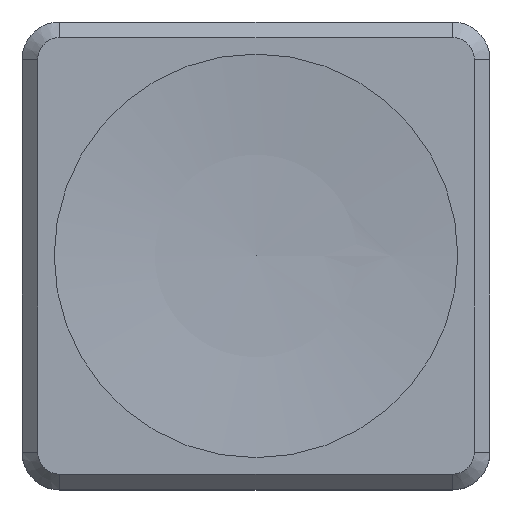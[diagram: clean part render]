
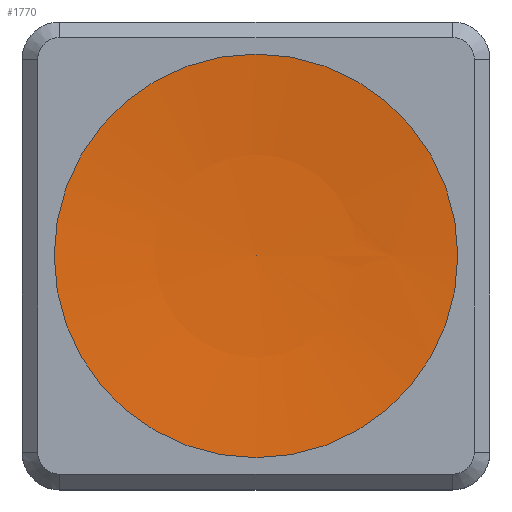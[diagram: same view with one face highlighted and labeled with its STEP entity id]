
A CAD part, top view. The second image highlights one B-rep face of the part: STEP entity #1770.
In plain terms, the highlighted spherical face has radius 60 mm.
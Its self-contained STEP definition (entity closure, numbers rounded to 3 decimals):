
#286 = PLANE('',#287);
#287 = AXIS2_PLACEMENT_3D('',#288,#289,#290);
#288 = CARTESIAN_POINT('',(-7.5,-7.5,4.));
#289 = DIRECTION('',(0.,0.,1.));
#290 = DIRECTION('',(1.,0.,0.));
#1032 = EDGE_CURVE('',#1033,#1033,#1035,.T.);
#1033 = VERTEX_POINT('',#1034);
#1034 = CARTESIAN_POINT('',(6.471,0.,4.));
#1035 = SURFACE_CURVE('',#1036,(#1041,#1048),.PCURVE_S1.);
#1036 = CIRCLE('',#1037,6.471);
#1037 = AXIS2_PLACEMENT_3D('',#1038,#1039,#1040);
#1038 = CARTESIAN_POINT('',(0.,0.,4.));
#1039 = DIRECTION('',(0.,0.,1.));
#1040 = DIRECTION('',(1.,0.,-0.));
#1041 = PCURVE('',#286,#1042);
#1042 = DEFINITIONAL_REPRESENTATION('',(#1043),#1047);
#1043 = CIRCLE('',#1044,6.471);
#1044 = AXIS2_PLACEMENT_2D('',#1045,#1046);
#1045 = CARTESIAN_POINT('',(7.5,7.5));
#1046 = DIRECTION('',(1.,0.));
#1047 = ( GEOMETRIC_REPRESENTATION_CONTEXT(2) 
PARAMETRIC_REPRESENTATION_CONTEXT() REPRESENTATION_CONTEXT('2D SPACE',''
  ) );
#1048 = PCURVE('',#1049,#1054);
#1049 = SPHERICAL_SURFACE('',#1050,60.);
#1050 = AXIS2_PLACEMENT_3D('',#1051,#1052,#1053);
#1051 = CARTESIAN_POINT('',(0.,0.,63.65));
#1052 = DIRECTION('',(0.,0.,1.));
#1053 = DIRECTION('',(1.,0.,0.));
#1054 = DEFINITIONAL_REPRESENTATION('',(#1055),#1059);
#1055 = LINE('',#1056,#1057);
#1056 = CARTESIAN_POINT('',(0.,-1.463));
#1057 = VECTOR('',#1058,1.);
#1058 = DIRECTION('',(1.,0.));
#1059 = ( GEOMETRIC_REPRESENTATION_CONTEXT(2) 
PARAMETRIC_REPRESENTATION_CONTEXT() REPRESENTATION_CONTEXT('2D SPACE',''
  ) );
#1770 = ADVANCED_FACE('',(#1771),#1049,.F.);
#1771 = FACE_BOUND('',#1772,.F.);
#1772 = EDGE_LOOP('',(#1773,#1774,#1798));
#1773 = ORIENTED_EDGE('',*,*,#1032,.F.);
#1774 = ORIENTED_EDGE('',*,*,#1775,.F.);
#1775 = EDGE_CURVE('',#1776,#1033,#1778,.T.);
#1776 = VERTEX_POINT('',#1777);
#1777 = CARTESIAN_POINT('',(0.,0.,3.65)
  );
#1778 = SEAM_CURVE('',#1779,(#1784,#1791),.PCURVE_S1.);
#1779 = CIRCLE('',#1780,60.);
#1780 = AXIS2_PLACEMENT_3D('',#1781,#1782,#1783);
#1781 = CARTESIAN_POINT('',(0.,0.,63.65));
#1782 = DIRECTION('',(0.,-1.,0.));
#1783 = DIRECTION('',(1.,0.,0.));
#1784 = PCURVE('',#1049,#1785);
#1785 = DEFINITIONAL_REPRESENTATION('',(#1786),#1790);
#1786 = LINE('',#1787,#1788);
#1787 = CARTESIAN_POINT('',(6.283,-6.283));
#1788 = VECTOR('',#1789,1.);
#1789 = DIRECTION('',(0.,1.));
#1790 = ( GEOMETRIC_REPRESENTATION_CONTEXT(2) 
PARAMETRIC_REPRESENTATION_CONTEXT() REPRESENTATION_CONTEXT('2D SPACE',''
  ) );
#1791 = PCURVE('',#1049,#1792);
#1792 = DEFINITIONAL_REPRESENTATION('',(#1793),#1797);
#1793 = LINE('',#1794,#1795);
#1794 = CARTESIAN_POINT('',(0.,-6.283));
#1795 = VECTOR('',#1796,1.);
#1796 = DIRECTION('',(0.,1.));
#1797 = ( GEOMETRIC_REPRESENTATION_CONTEXT(2) 
PARAMETRIC_REPRESENTATION_CONTEXT() REPRESENTATION_CONTEXT('2D SPACE',''
  ) );
#1798 = ORIENTED_EDGE('',*,*,#1775,.T.);
